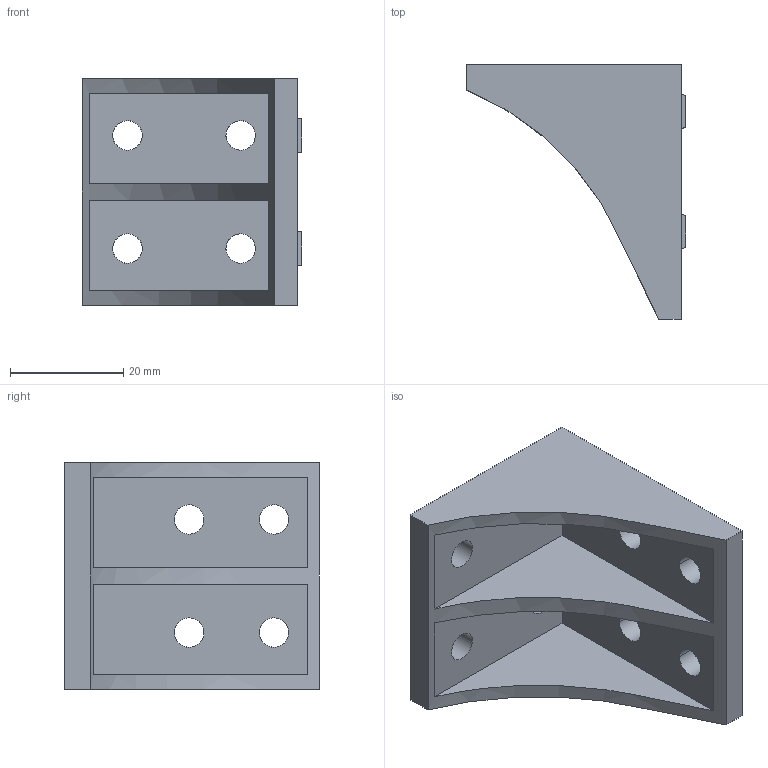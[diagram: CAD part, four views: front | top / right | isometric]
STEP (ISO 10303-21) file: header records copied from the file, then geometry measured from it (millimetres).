
FILE_DESCRIPTION(/* description */ (''),/* implementation_level */ '2;1');
FILE_NAME(/* name */ '6.y-drive#6.1#HBLFSDW5',/* time_stamp */ '2014-12-01T20:13:46+01:00',/* author */ (''),/* organization */ (''),/* preprocessor_version */ 'ST-DEVELOPER v14',/* originating_system */ '',/* authorisation */ '');
FILE_SCHEMA (('AUTOMOTIVE_DESIGN'));
Length unit declared in the file: millimetre
Products named in the file (2): Document; angle bracket, heavy, double
Assembly tree (1 placements, depth 2):
  Document
    angle bracket, heavy, double
Bounding box: 38.8 x 45 x 40 mm (x, y, z)
Volume: 18273.6 mm3; surface area: 10205.9 mm2
Topology: 1 solids, 1 shells, 51 faces, 129 edges, 86 vertices
Faces by surface type: plane 34, bspline 17
Entity records: 7566 total; most frequent: CARTESIAN_POINT 5752, B_SPLINE_CURVE_WITH_KNOTS 339, ORIENTED_EDGE 258, PCURVE 258, DEFINITIONAL_REPRESENTATION 258, SURFACE_CURVE 129, EDGE_CURVE 129, VERTEX_POINT 86
